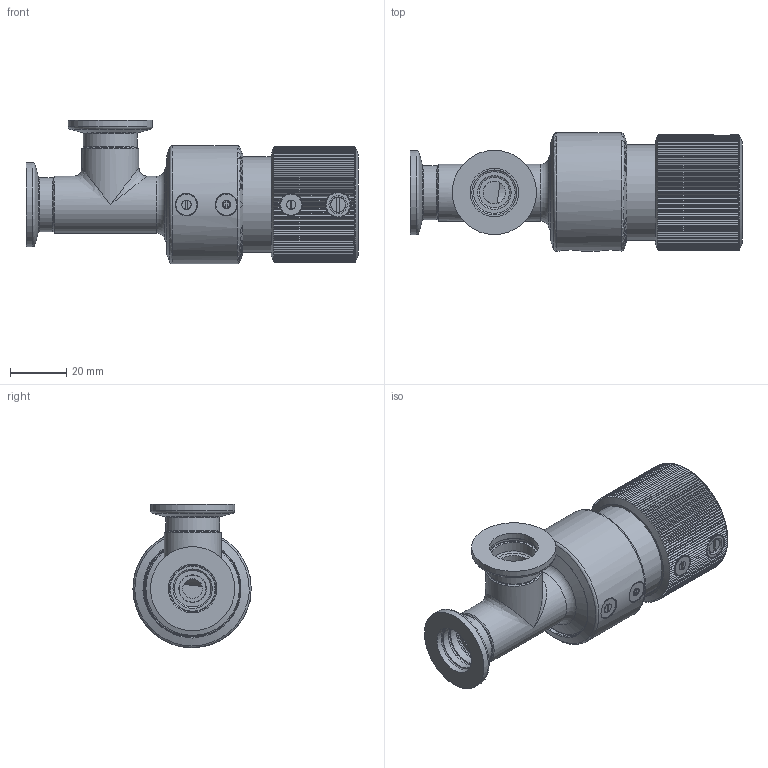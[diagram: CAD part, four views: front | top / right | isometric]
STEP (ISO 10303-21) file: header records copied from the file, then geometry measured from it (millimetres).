
FILE_DESCRIPTION(/* description */ (''),/* implementation_level */ '2;1');
FILE_NAME(/* name */ '1331690536_203.stp',/* time_stamp */ '2019-03-18T08:07:45+01:00',/* author */ (''),/* organization */ (''),/* preprocessor_version */ 'ST-DEVELOPER v16',/* originating_system */ 'SIEMENS PLM Software NX 11.0',/* authorisation */ '');
FILE_SCHEMA (('AP203_CONFIGURATION_CONTROLLED_3D_DESIGN_OF_MECHANICAL_PARTS_AND_ASSEMBLIES_MIM_LF { 1 0 10303 403 2 1 2}'));
Products named in the file (14): 725444; 725446; 725356; 725353; 725423; 718021_25793ID; 796309; 588330; 723850; n-6016-465.1; 725448_MODEL; 725424_MODEL; 718023_MODEL; 798618
Assembly tree (17 placements, depth 3):
  798618
    718023_MODEL
      718021_25793ID
    725424_MODEL
      725423
      725353  x2
      725356
    725448_MODEL
      725446
      725356
      725444
    n-6016-465.1  x2
    723850
    588330  x2
    796309
Bounding box: 118.06 x 42 x 51 mm (x, y, z)
Volume: 64315.7 mm3; surface area: 42708.4 mm2
Topology: 24 solids, 24 shells, 5340 faces, 13296 edges, 8042 vertices
Faces by surface type: bspline 3364, plane 985, cylinder 862, cone 83, torus 46
Full cylindrical faces by diameter (mm): 2.46 x2, 2.5 x4, 2.987 x1, 3 x2, 3.021 x1, 3.24 x2, 3.6 x2, 4.009 x2, 6.5 x2, 7 x1, 8 x3, 9.575 x1, 12 x1, 13 x1, 14.65 x1, 15.5 x1, 16 x3, 16.009 x1, 16.5 x1, 16.85 x1, 17.1 x1, 17.3 x2, 17.85 x1, 18.3 x1, 18.6 x1, 19.2 x2, 19.25 x1, 20.2 x2, 21 x1, 21.8 x1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
Entity records: 137514 total; most frequent: CARTESIAN_POINT 71442, ORIENTED_EDGE 16936, EDGE_CURVE 8468, DIRECTION 6732, B_SPLINE_CURVE_WITH_KNOTS 5617, VERTEX_POINT 5238, EDGE_LOOP 3608, ADVANCED_FACE 3415
